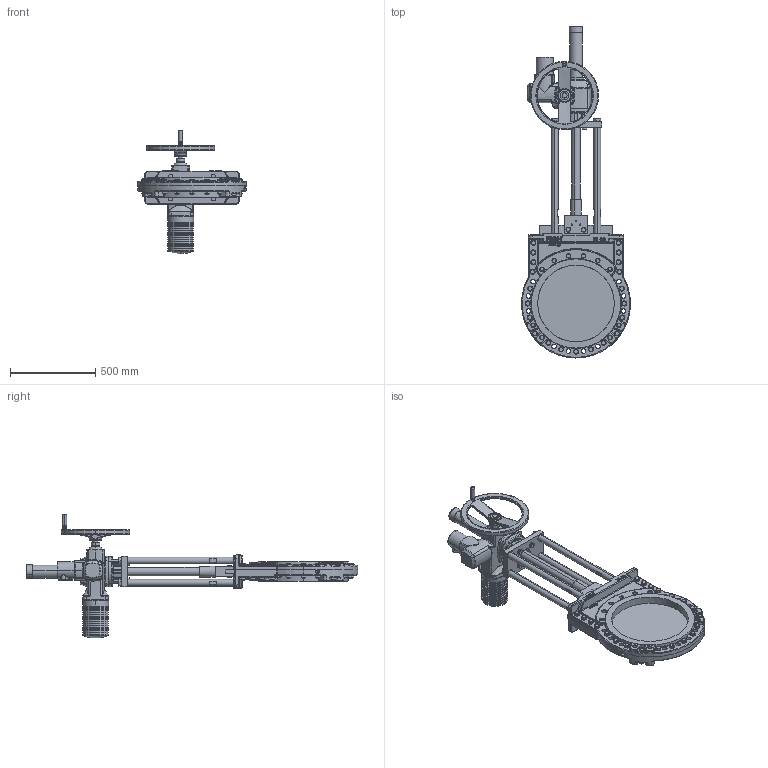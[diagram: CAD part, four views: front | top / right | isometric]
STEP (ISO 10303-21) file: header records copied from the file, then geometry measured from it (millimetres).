
FILE_DESCRIPTION (( 'STEP AP214' ), '1' );
FILE_NAME ('MGE DN 0450 PN10 (SA 14.6).STEP', '2015-09-23T08:42:52', ( 'admin' ), ( 'Hewlett-Packard Company' ), 'SwSTEP 2.0', 'SolidWorks 2013', '' );
FILE_SCHEMA (( 'AUTOMOTIVE_DESIGN' ));
Length unit declared in the file: millimetre
Products named in the file (1): MGE DN 0450 PN10 (SA 14.6)
Bounding box: 640 x 1948 x 727 mm (x, y, z)
Volume: 50107691.5 mm3; surface area: 3832799.3 mm2
Topology: 108 solids, 120 shells, 3836 faces, 8818 edges, 5299 vertices
Faces by surface type: plane 1356, cylinder 1067, cone 668, bspline 479, torus 248, sphere 18
Entity records: 184988 total; most frequent: CARTESIAN_POINT 58356, ORIENTED_EDGE 17460, DIRECTION 16960, EDGE_CURVE 8730, AXIS2_PLACEMENT_3D 6857, VERTEX_POINT 5299, EDGE_LOOP 4261, UNCERTAINTY_MEASURE_WITH_UNIT 3943
